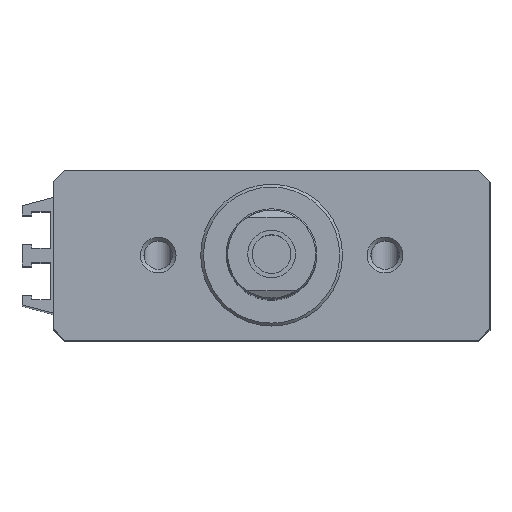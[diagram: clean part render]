
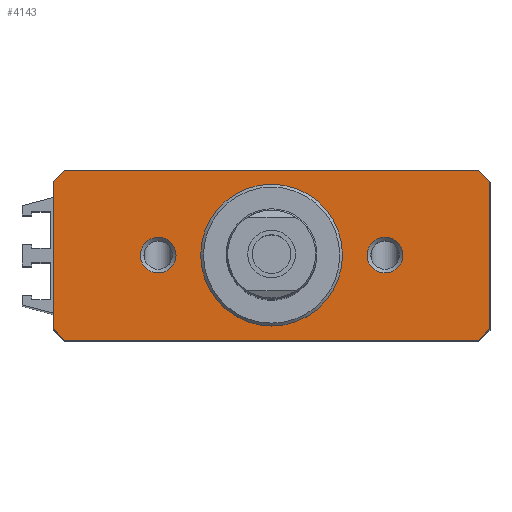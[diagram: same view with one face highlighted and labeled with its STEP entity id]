
A CAD part, top view. The second image highlights one B-rep face of the part: STEP entity #4143.
In plain terms, the highlighted planar face has unit normal (0, 0, 1) as drawn and (0, 0, -1) by its records, which use the part's own axes.
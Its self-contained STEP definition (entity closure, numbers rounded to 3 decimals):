
#2974=CARTESIAN_POINT('',(-12.5,0.0,-8.5));
#2975=VERTEX_POINT('',#2974);
#2976=CARTESIAN_POINT('',(0.0,0.0,-8.5));
#2977=DIRECTION('',(0.0,0.0,1.0));
#2978=DIRECTION('',(-1.0,0.0,0.0));
#2979=AXIS2_PLACEMENT_3D('',#2976,#2977,#2978);
#2980=CIRCLE('',#2979,12.5);
#2981=EDGE_CURVE('',#2975,#2975,#2980,.T.);
#3544=CARTESIAN_POINT('',(16.85,0.0,-8.5));
#3545=VERTEX_POINT('',#3544);
#3546=CARTESIAN_POINT('',(20.0,0.0,-8.5));
#3547=DIRECTION('',(0.0,0.0,1.0));
#3548=DIRECTION('',(-1.0,0.0,0.0));
#3549=AXIS2_PLACEMENT_3D('',#3546,#3547,#3548);
#3550=CIRCLE('',#3549,3.15);
#3551=EDGE_CURVE('',#3545,#3545,#3550,.T.);
#3595=CARTESIAN_POINT('',(-23.15,0.0,-8.5));
#3596=VERTEX_POINT('',#3595);
#3597=CARTESIAN_POINT('',(-20.0,0.0,-8.5));
#3598=DIRECTION('',(0.0,0.0,1.0));
#3599=DIRECTION('',(-1.0,0.0,0.0));
#3600=AXIS2_PLACEMENT_3D('',#3597,#3598,#3599);
#3601=CIRCLE('',#3600,3.15);
#3602=EDGE_CURVE('',#3596,#3596,#3601,.T.);
#3914=CARTESIAN_POINT('',(36.5,15.0,-8.5));
#3915=VERTEX_POINT('',#3914);
#3916=CARTESIAN_POINT('',(-36.5,15.0,-8.5));
#3917=VERTEX_POINT('',#3916);
#3918=CARTESIAN_POINT('',(36.5,15.0,-8.5));
#3919=DIRECTION('',(-1.0,0.0,0.0));
#3920=VECTOR('',#3919,73.0);
#3921=LINE('',#3918,#3920);
#3922=EDGE_CURVE('',#3915,#3917,#3921,.T.);
#3951=CARTESIAN_POINT('',(-38.5,13.,-8.5));
#3952=VERTEX_POINT('',#3951);
#3953=CARTESIAN_POINT('',(-36.5,15.0,-8.5));
#3954=DIRECTION('',(-0.707,-0.707,0.0));
#3955=VECTOR('',#3954,2.828);
#3956=LINE('',#3953,#3955);
#3957=EDGE_CURVE('',#3917,#3952,#3956,.T.);
#3975=CARTESIAN_POINT('',(-38.5,-13.,-8.5));
#3976=VERTEX_POINT('',#3975);
#3977=CARTESIAN_POINT('',(-38.5,13.,-8.5));
#3978=DIRECTION('',(0.0,-1.0,0.0));
#3979=VECTOR('',#3978,26.);
#3980=LINE('',#3977,#3979);
#3981=EDGE_CURVE('',#3952,#3976,#3980,.T.);
#4002=CARTESIAN_POINT('',(-36.5,-15.0,-8.5));
#4003=VERTEX_POINT('',#4002);
#4004=CARTESIAN_POINT('',(-38.5,-13.,-8.5));
#4005=DIRECTION('',(0.707,-0.707,0.0));
#4006=VECTOR('',#4005,2.828);
#4007=LINE('',#4004,#4006);
#4008=EDGE_CURVE('',#3976,#4003,#4007,.T.);
#4026=CARTESIAN_POINT('',(36.5,-15.,-8.5));
#4027=VERTEX_POINT('',#4026);
#4028=CARTESIAN_POINT('',(-36.5,-15.0,-8.5));
#4029=DIRECTION('',(1.0,0.0,0.0));
#4030=VECTOR('',#4029,73.0);
#4031=LINE('',#4028,#4030);
#4032=EDGE_CURVE('',#4003,#4027,#4031,.T.);
#4056=CARTESIAN_POINT('',(38.5,-13.0,-8.5));
#4057=VERTEX_POINT('',#4056);
#4058=CARTESIAN_POINT('',(36.5,-15.,-8.5));
#4059=DIRECTION('',(0.707,0.707,0.0));
#4060=VECTOR('',#4059,2.828);
#4061=LINE('',#4058,#4060);
#4062=EDGE_CURVE('',#4027,#4057,#4061,.T.);
#4080=CARTESIAN_POINT('',(38.5,13.0,-8.5));
#4081=VERTEX_POINT('',#4080);
#4082=CARTESIAN_POINT('',(38.5,-13.0,-8.5));
#4083=DIRECTION('',(0.0,1.0,0.0));
#4084=VECTOR('',#4083,26.0);
#4085=LINE('',#4082,#4084);
#4086=EDGE_CURVE('',#4057,#4081,#4085,.T.);
#4107=CARTESIAN_POINT('',(38.5,13.0,-8.5));
#4108=DIRECTION('',(-0.707,0.707,0.0));
#4109=VECTOR('',#4108,2.828);
#4110=LINE('',#4107,#4109);
#4111=EDGE_CURVE('',#4081,#3915,#4110,.T.);
#4119=CARTESIAN_POINT('',(0.,0.0,-8.5));
#4120=DIRECTION('',(0.0,0.0,1.0));
#4121=DIRECTION('',(1.0,0.0,0.0));
#4122=AXIS2_PLACEMENT_3D('',#4119,#4120,#4121);
#4123=PLANE('',#4122);
#4124=ORIENTED_EDGE('',*,*,#3922,.F.);
#4125=ORIENTED_EDGE('',*,*,#4111,.F.);
#4126=ORIENTED_EDGE('',*,*,#4086,.F.);
#4127=ORIENTED_EDGE('',*,*,#4062,.F.);
#4128=ORIENTED_EDGE('',*,*,#4032,.F.);
#4129=ORIENTED_EDGE('',*,*,#4008,.F.);
#4130=ORIENTED_EDGE('',*,*,#3981,.F.);
#4131=ORIENTED_EDGE('',*,*,#3957,.F.);
#4132=EDGE_LOOP('',(#4124,#4125,#4126,#4127,#4128,#4129,#4130,#4131));
#4133=FACE_OUTER_BOUND('',#4132,.T.);
#4134=ORIENTED_EDGE('',*,*,#2981,.T.);
#4135=EDGE_LOOP('',(#4134));
#4136=FACE_BOUND('',#4135,.T.);
#4137=ORIENTED_EDGE('',*,*,#3551,.T.);
#4138=EDGE_LOOP('',(#4137));
#4139=FACE_BOUND('',#4138,.T.);
#4140=ORIENTED_EDGE('',*,*,#3602,.T.);
#4141=EDGE_LOOP('',(#4140));
#4142=FACE_BOUND('',#4141,.T.);
#4143=ADVANCED_FACE('',(#4133,#4136,#4139,#4142),#4123,.F.);
